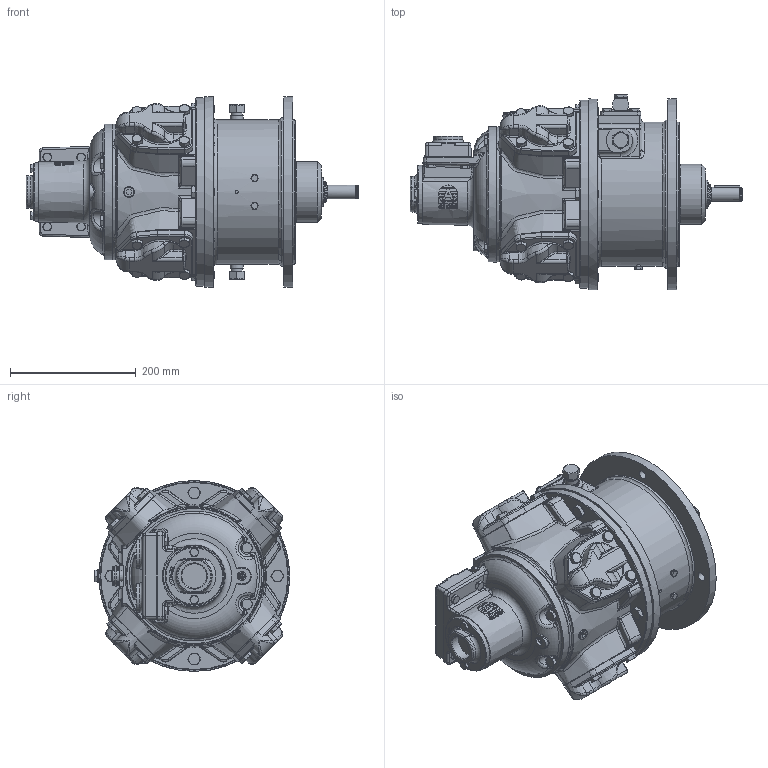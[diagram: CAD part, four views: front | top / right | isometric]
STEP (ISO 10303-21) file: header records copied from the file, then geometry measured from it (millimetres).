
FILE_DESCRIPTION (( 'STEP AP214' ), '1' );
FILE_NAME ('RM310+RM310 Brake Defeature + Logo.STEP', '2023-06-14T08:19:16', ( '' ), ( '' ), 'SwSTEP 2.0', 'SolidWorks 2022', '' );
FILE_SCHEMA (( 'AUTOMOTIVE_DESIGN' ));
Length unit declared in the file: millimetre
Products named in the file (1): RM310+RM310 Brake Defeature + Logo
Bounding box: 529 x 311.27 x 304 mm (x, y, z)
Volume: 18352407.6 mm3; surface area: 604931.5 mm2
Topology: 1 solids, 1 shells, 2573 faces, 6270 edges, 3765 vertices
Faces by surface type: plane 1082, bspline 503, cone 440, cylinder 404, torus 131, sphere 13
Full cylindrical faces by diameter (mm): 1.9 x2, 5 x1, 6 x2, 8 x1, 8.5 x1, 9.728 x2, 10 x4, 10.5 x1, 12 x4, 13 x10, 13.157 x1, 14 x6, 16 x20, 17.78 x2, 18 x4, 20.57 x2, 20.955 x2, 22 x1, 30.5 x2, 32 x1, 39.5 x1, 45 x1, 46.94 x1, 47.04 x1, 62.69 x1, 72 x1, 96 x1, 215.9 x1, 230 x2, 236 x1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
Entity records: 146075 total; most frequent: CARTESIAN_POINT 63728, ORIENTED_EDGE 12032, DIRECTION 9874, EDGE_CURVE 6016, AXIS2_PLACEMENT_3D 3855, VERTEX_POINT 3708, EDGE_LOOP 2846, FACE_OUTER_BOUND 2669
